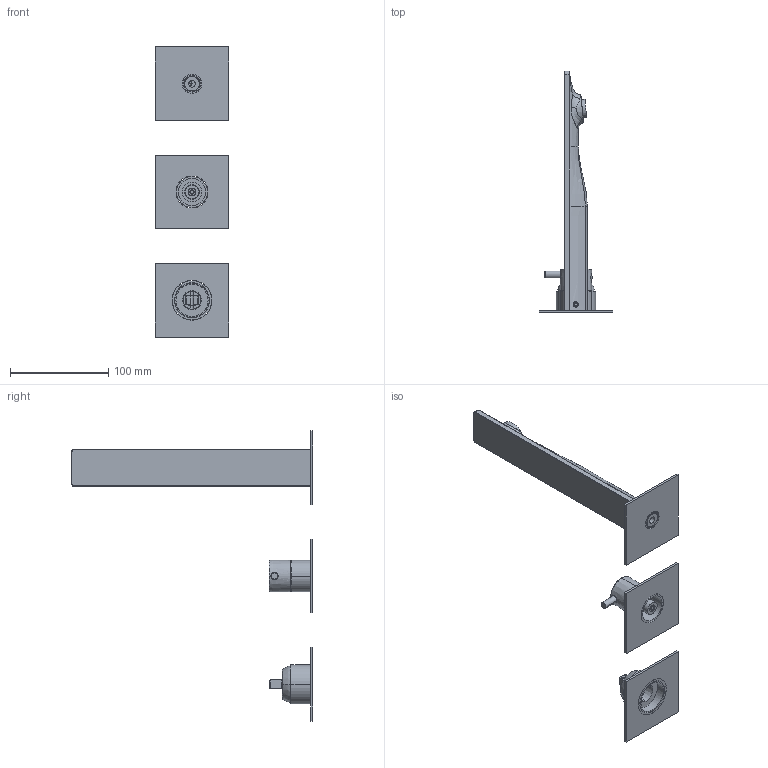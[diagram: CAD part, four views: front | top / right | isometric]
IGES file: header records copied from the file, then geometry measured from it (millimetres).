
Start section:  PTC IGES file: 3d_sw0001.igs
Global section: file name: 3d_sw0001.igs; native system: Creo Parametric by PTC Inc.; preprocessor: 2022014; author: volponeff; organization: Unknown; date: 20241001.112806; units: millimetre
Bounding box: 75 x 245 x 295 mm (x, y, z)
Surface area: 103485.3 mm2 (no closed solid volume)
Topology: 0 solids, 0 shells, 1136 faces, 6254 edges, 6230 vertices
Faces by surface type: revolution 660, bspline 472, extrusion 4
